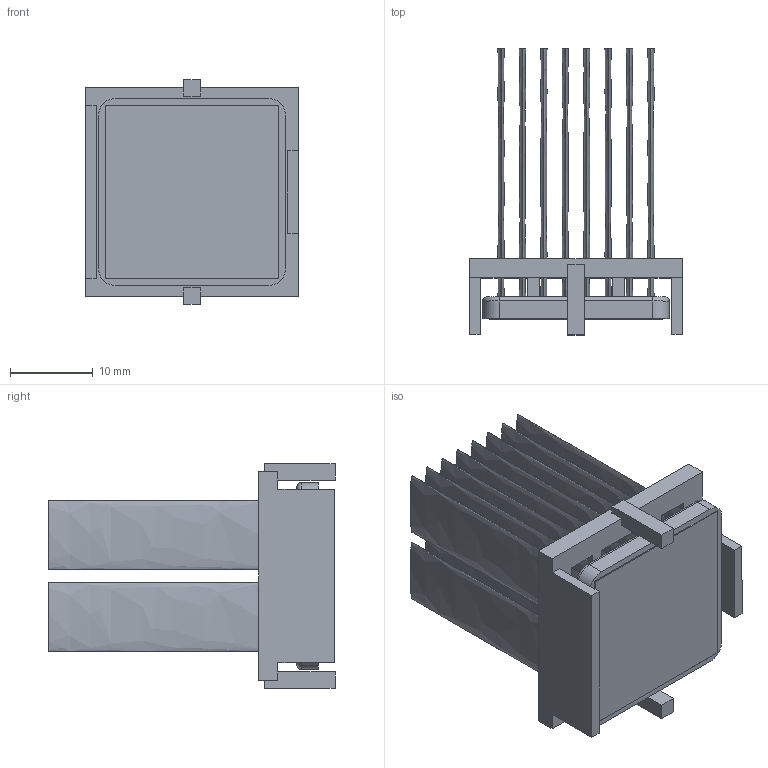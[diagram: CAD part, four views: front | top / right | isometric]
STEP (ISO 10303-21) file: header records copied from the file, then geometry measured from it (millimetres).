
FILE_DESCRIPTION (( 'STEP AP214' ), '1' );
FILE_NAME ('INM23001-33W_2.6+BU.STEP', '2023-02-15T19:40:17', ( '' ), ( '' ), 'SwSTEP 2.0', 'SolidWorks 2020', '' );
FILE_SCHEMA (( 'AUTOMOTIVE_DESIGN' ));
Length unit declared in the file: inch
Products named in the file (1): INM23001-33W_2.6+BU
Bounding box: 25.7 x 34.6 x 27.2 mm (x, y, z)
Volume: 4835.2 mm3; surface area: 12028.1 mm2
Topology: 3 solids, 3 shells, 126 faces, 304 edges, 200 vertices
Faces by surface type: plane 82, bspline 32, cylinder 8, torus 4
Entity records: 5404 total; most frequent: CARTESIAN_POINT 1047, ORIENTED_EDGE 608, DIRECTION 450, EDGE_CURVE 304, VECTOR 220, LINE 220, VERTEX_POINT 200, EDGE_LOOP 144
